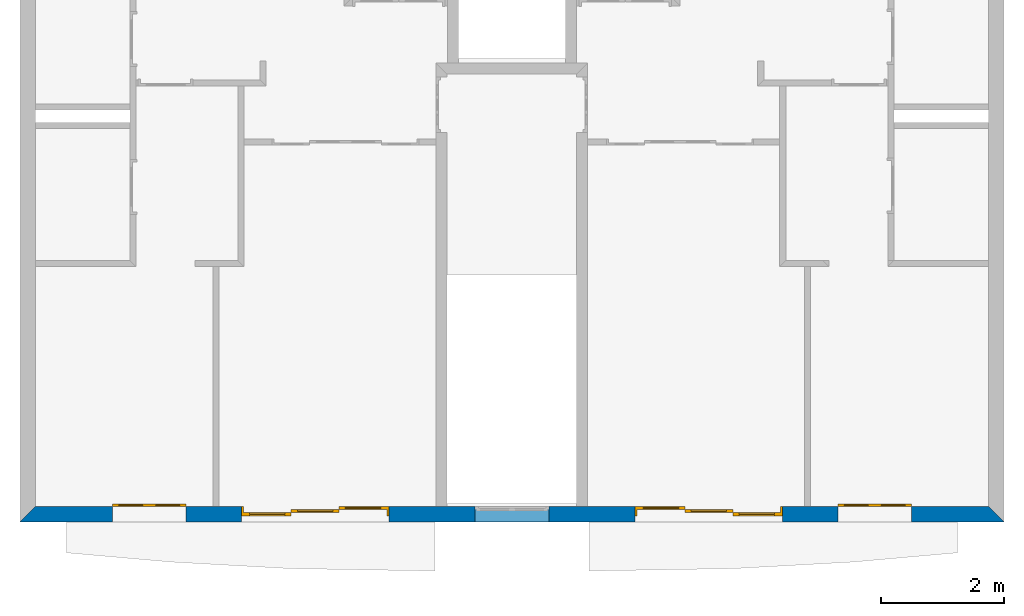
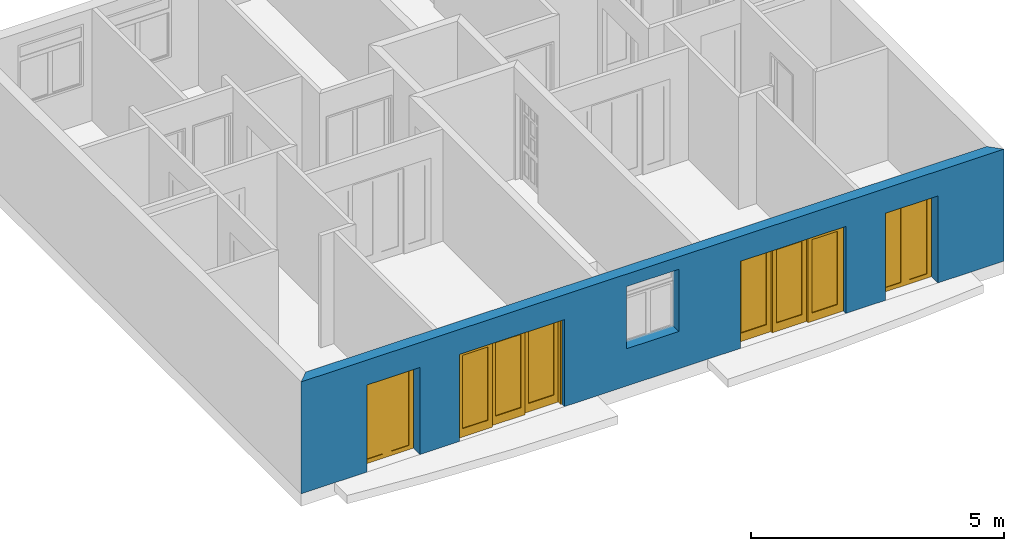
# One storey, part 2 of 13: 4 doors, 1 wall, 5 openings.
"""IFC2X3 building model written with IfcOpenShell, lengths in metres."""

from ifc_helpers import new_model, entity, si_unit, converted_unit, direction, frame, frame_2d, origin_with_axes, place, context, project, spatial, polyline, rectangle, outline, extrude, faceted_brep, source, transform, mapped, material, layer, layer_set, layer_usage, type_object, element, fill, save


model = new_model("IFC2X3")

# Units and contexts
context_of_model = context(None, 3, precision=1e-05, world=origin_with_axes(), true_north=direction((6.123234e-17, 1.0)))
plan_context = context("Plan", 3, precision=1e-05, world=origin_with_axes(), true_north=direction((6.123234e-17, 1.0)))
model_context = context("Model", 3, precision=1e-05, world=origin_with_axes(), true_north=direction((6.123234e-17, 1.0)))
ifc_project = project(units=[si_unit("LENGTHUNIT", "METRE"), si_unit("AREAUNIT", "SQUARE_METRE"), si_unit("VOLUMEUNIT", "CUBIC_METRE"), converted_unit("PLANEANGLEUNIT", "DEGREE", entity("IfcPlaneAngleMeasure", 0.017453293), si_unit("PLANEANGLEUNIT", "RADIAN"), dimensions=[0, 0, 0, 0, 0, 0, 0]), si_unit("SOLIDANGLEUNIT", "STERADIAN"), si_unit("MASSUNIT", "GRAM"), si_unit("TIMEUNIT", "SECOND"), si_unit("THERMODYNAMICTEMPERATUREUNIT", "DEGREE_CELSIUS"), si_unit("LUMINOUSINTENSITYUNIT", "LUMEN")], contexts=[context_of_model, plan_context, model_context])

# Site, building, storey
site_placement = place(None, origin_with_axes())
site = spatial("IfcSite", under=ifc_project, at=site_placement, Name="Por defecto Sitio", CompositionType="ELEMENT")
building_placement = place(site_placement, origin_with_axes())
building = spatial("IfcBuilding", under=site, at=building_placement, Name="Por defecto Edificio", CompositionType="ELEMENT")
storey_placement = place(building_placement, frame((0.0, 0.0, 7.2), z_axis=(0.0, 0.0, 1.0), x_axis=(1.0, 0.0, 0.0)))
storey = spatial("IfcBuildingStorey", under=building, at=storey_placement, Name="Segunda", CompositionType="ELEMENT", Elevation=7.2)

# Wall, openings, doors
ifc_material = material(Name="Ladrillo común")
ifc_layer = layer(ifc_material, 0.25, ventilated="UNKNOWN")
ifc_layer_set = layer_set([ifc_layer], Name="Ladrillo común")
ifc_layer_usage = layer_usage(ifc_layer_set, "AXIS2", "NEGATIVE", 0.0)
wall_type = type_object("IfcWallType", Name="Ladrillo común", PredefinedType="NOTDEFINED")
wall_placement = place(storey_placement, frame((16.03417, -1.1368684e-13, 0.0), z_axis=(0.0, 0.0, 1.0), x_axis=(-1.0, 7.0902852e-15, 0.0)))
wall = element("IfcWallStandardCase", 1, at=wall_placement, inside=storey, type_object=wall_type, material=ifc_layer_usage, Name="Muro-011", context=context_of_model, shape_type="SweptSolid", body=[
    extrude(outline(polyline([(0.25, -0.25), (15.78417, -0.25), (16.03417, 0.0), (0.0, 0.0), (0.25, -0.25)])), origin_with_axes(), (0.0, 0.0, 1.0), 2.7),
])
opening_1_placement = place(wall_placement, frame((13.926599, -0.25, 0.0), z_axis=(0.0, 0.0, 1.0), x_axis=(1.0, 0.0, 0.0)))
opening_1 = element("IfcOpeningElement", 2, at=opening_1_placement, cuts=wall, ObjectType="Opening", context=model_context, shape_type="SweptSolid", body=[
    extrude(rectangle(XDim=1.2, YDim=2.1, at=frame_2d((-1.7763568e-15, 1.05), x_axis=(-1.0, 0.0))), frame((0.0, 0.0, 0.0), z_axis=(0.0, 1.0, 0.0), x_axis=(-1.0, 0.0, 0.0)), (0.0, 0.0, 1.0), 0.25),
])
opening_2_placement = place(wall_placement, frame((2.1075705, -0.25, 0.0), z_axis=(0.0, 0.0, 1.0), x_axis=(1.0, 0.0, 0.0)))
opening_2 = element("IfcOpeningElement", 3, at=opening_2_placement, cuts=wall, ObjectType="Opening", context=model_context, shape_type="SweptSolid", body=[
    extrude(rectangle(XDim=1.2, YDim=2.1, at=frame_2d((-1.7763568e-15, 1.05), x_axis=(-1.0, 0.0))), frame((0.0, 0.0, 0.0), z_axis=(0.0, 1.0, 0.0), x_axis=(-1.0, 0.0, 0.0)), (0.0, 0.0, 1.0), 0.25),
])
opening_3_placement = place(wall_placement, frame((11.225136, -0.25, 0.0), z_axis=(0.0, 0.0, 1.0), x_axis=(1.0, 0.0, 0.0)))
opening_3 = element("IfcOpeningElement", 4, at=opening_3_placement, cuts=wall, ObjectType="Opening", context=model_context, shape_type="SweptSolid", body=[
    extrude(rectangle(XDim=2.4, YDim=2.1, at=frame_2d((-1.7763568e-15, 1.05), x_axis=(-1.0, 0.0))), frame((0.0, 0.0, 0.0), z_axis=(0.0, 1.0, 0.0), x_axis=(-1.0, 0.0, 0.0)), (0.0, 0.0, 1.0), 0.25),
])
opening_4_placement = place(wall_placement, frame((4.8090341, -0.25, 0.0), z_axis=(0.0, 0.0, 1.0), x_axis=(1.0, 0.0, 0.0)))
opening_4 = element("IfcOpeningElement", 5, at=opening_4_placement, cuts=wall, ObjectType="Opening", context=model_context, shape_type="SweptSolid", body=[
    extrude(rectangle(XDim=2.4, YDim=2.1, at=frame_2d((-1.7763568e-15, 1.05), x_axis=(-1.0, 0.0))), frame((0.0, 0.0, 0.0), z_axis=(0.0, 1.0, 0.0), x_axis=(-1.0, 0.0, 0.0)), (0.0, 0.0, 1.0), 0.25),
])
opening_5_placement = place(wall_placement, frame((8.0170849, -0.25, 0.9), z_axis=(0.0, 0.0, 1.0), x_axis=(1.0, 0.0, 0.0)))
element("IfcOpeningElement", 6, at=opening_5_placement, cuts=wall, ObjectType="Opening", context=model_context, shape_type="SweptSolid", body=[
    extrude(rectangle(XDim=1.2, YDim=1.5, at=frame_2d((-1.7763568e-15, 0.75), x_axis=(-1.0, 0.0))), frame((0.0, 0.0, 0.0), z_axis=(0.0, 1.0, 0.0), x_axis=(-1.0, 0.0, 0.0)), (0.0, 0.0, 1.0), 0.25),
])
door_style_1 = type_object("IfcDoorStyle", Name="P2 Corredera Ext 12", ConstructionType="NOTDEFINED", OperationType="DOUBLE_DOOR_SLIDING", ParameterTakesPrecedence=False, Sizeable=False)
shared_shape_1 = source(origin_with_axes(), model_context, "Body", "Brep", [
    faceted_brep([(-2.4424907e-15, 0.045, 0.1), (0.1, 0.045, 0.1), (0.1, 0.005, 0.1), (-2.220446e-15, 0.005, 0.1), (-2.4424907e-15, 0.045, 2.0), (0.1, 0.045, 2.0), (0.1, 0.005, 2.0), (-2.220446e-15, 0.005, 2.0)], [[[0, 1, 2, 3]], [[0, 4, 5, 1]], [[1, 5, 6, 2]], [[3, 2, 6, 7]], [[4, 0, 3, 7]], [[5, 4, 7, 6]]]),
    faceted_brep([(0.6, 0.045, 0.1), (0.6, 0.045, 2.0), (0.6, 0.005, 2.0), (0.6, 0.005, 0.1), (0.5, 0.045, 0.1), (0.5, 0.045, 2.0), (0.5, 0.005, 2.0), (0.5, 0.005, 0.1)], [[[0, 1, 2, 3]], [[0, 4, 5, 1]], [[1, 5, 6, 2]], [[3, 2, 6, 7]], [[4, 0, 3, 7]], [[5, 4, 7, 6]]]),
    faceted_brep([(-2.4424907e-15, 0.045, 0.0), (0.6, 0.045, 0.0), (0.6, 0.005, 0.0), (-2.220446e-15, 0.005, 0.0), (-2.4424907e-15, 0.045, 0.1), (0.1, 0.045, 0.1), (0.5, 0.045, 0.1), (0.6, 0.045, 0.1), (0.6, 0.005, 0.1), (0.5, 0.005, 0.1), (0.1, 0.005, 0.1), (-2.220446e-15, 0.005, 0.1)], [[[0, 1, 2, 3]], [[0, 4, 5, 6, 7, 1]], [[1, 7, 8, 2]], [[3, 2, 8, 9, 10, 11]], [[4, 0, 3, 11]], [[5, 4, 11, 10]], [[6, 5, 10, 9]], [[7, 6, 9, 8]]]),
    faceted_brep([(-2.4424907e-15, 0.045, 2.1), (-2.4424907e-15, 0.045, 2.0), (-2.220446e-15, 0.005, 2.0), (-2.220446e-15, 0.005, 2.1), (0.6, 0.045, 2.1), (0.6, 0.045, 2.0), (0.5, 0.045, 2.0), (0.1, 0.045, 2.0), (0.1, 0.005, 2.0), (0.5, 0.005, 2.0), (0.6, 0.005, 2.0), (0.6, 0.005, 2.1)], [[[0, 1, 2, 3]], [[0, 4, 5, 6, 7, 1]], [[1, 7, 8, 2]], [[3, 2, 8, 9, 10, 11]], [[4, 0, 3, 11]], [[5, 4, 11, 10]], [[6, 5, 10, 9]], [[7, 6, 9, 8]]]),
    faceted_brep([(0.1, 0.031, 0.1), (0.5, 0.031, 0.1), (0.5, 0.019, 0.1), (0.1, 0.019, 0.1), (0.1, 0.031, 2.0), (0.5, 0.031, 2.0), (0.5, 0.019, 2.0), (0.1, 0.019, 2.0)], [[[0, 1, 2, 3]], [[0, 4, 5, 1]], [[1, 5, 6, 2]], [[3, 2, 6, 7]], [[4, 0, 3, 7]], [[5, 4, 7, 6]]]),
    faceted_brep([(1.2, 0.045, 0.1), (1.2, 0.005, 0.1), (1.1, 0.005, 0.1), (1.1, 0.045, 0.1), (1.2, 0.045, 2.0), (1.2, 0.005, 2.0), (1.1, 0.005, 2.0), (1.1, 0.045, 2.0)], [[[0, 1, 2, 3]], [[4, 5, 1, 0]], [[1, 5, 6, 2]], [[3, 2, 6, 7]], [[0, 3, 7, 4]], [[7, 6, 5, 4]]]),
    faceted_brep([(0.6, 0.045, 0.1), (0.6, 0.005, 0.1), (0.6, 0.005, 2.0), (0.6, 0.045, 2.0), (0.7, 0.045, 0.1), (0.7, 0.005, 0.1), (0.7, 0.005, 2.0), (0.7, 0.045, 2.0)], [[[0, 1, 2, 3]], [[4, 5, 1, 0]], [[1, 5, 6, 2]], [[3, 2, 6, 7]], [[0, 3, 7, 4]], [[7, 6, 5, 4]]]),
    faceted_brep([(1.2, 0.045, 0.0), (1.2, 0.005, 0.0), (0.6, 0.005, 0.0), (0.6, 0.045, 0.0), (1.2, 0.045, 0.1), (1.2, 0.005, 0.1), (1.1, 0.005, 0.1), (0.7, 0.005, 0.1), (0.6, 0.005, 0.1), (0.6, 0.045, 0.1), (0.7, 0.045, 0.1), (1.1, 0.045, 0.1)], [[[0, 1, 2, 3]], [[4, 5, 1, 0]], [[1, 5, 6, 7, 8, 2]], [[3, 2, 8, 9]], [[0, 3, 9, 10, 11, 4]], [[11, 6, 5, 4]], [[10, 7, 6, 11]], [[9, 8, 7, 10]]]),
    faceted_brep([(1.2, 0.045, 2.1), (1.2, 0.005, 2.1), (1.2, 0.005, 2.0), (1.2, 0.045, 2.0), (0.6, 0.045, 2.1), (0.6, 0.005, 2.1), (0.6, 0.005, 2.0), (0.7, 0.005, 2.0), (1.1, 0.005, 2.0), (1.1, 0.045, 2.0), (0.7, 0.045, 2.0), (0.6, 0.045, 2.0)], [[[0, 1, 2, 3]], [[4, 5, 1, 0]], [[1, 5, 6, 7, 8, 2]], [[3, 2, 8, 9]], [[0, 3, 9, 10, 11, 4]], [[11, 6, 5, 4]], [[10, 7, 6, 11]], [[9, 8, 7, 10]]]),
    faceted_brep([(1.1, 0.031, 0.1), (1.1, 0.019, 0.1), (0.7, 0.019, 0.1), (0.7, 0.031, 0.1), (1.1, 0.031, 2.0), (1.1, 0.019, 2.0), (0.7, 0.019, 2.0), (0.7, 0.031, 2.0)], [[[0, 1, 2, 3]], [[4, 5, 1, 0]], [[1, 5, 6, 2]], [[3, 2, 6, 7]], [[0, 3, 7, 4]], [[7, 6, 5, 4]]]),
])
door_1_placement = place(opening_1_placement, frame((0.6, 0.0, 0.0), z_axis=(0.0, 0.0, 1.0), x_axis=(-1.0, 0.0, 0.0)))
door_1 = element("IfcDoor", 7, at=door_1_placement, inside=storey, type_object=door_style_1, Name="P29", OverallHeight=2.1, OverallWidth=1.2, context=model_context, shape_type="MappedRepresentation", body=[
    mapped(shared_shape_1, transform((0.0, 0.0, 0.0), scale=1.0)),
])
fill(opening_1, door_1)
door_style_2 = type_object("IfcDoorStyle", Name="P2 Corredera Ext 12", ConstructionType="NOTDEFINED", OperationType="DOUBLE_DOOR_SLIDING", ParameterTakesPrecedence=False, Sizeable=False)
door_2_placement = place(opening_2_placement, frame((0.6, 0.0, 0.0), z_axis=(0.0, 0.0, 1.0), x_axis=(-1.0, 0.0, 0.0)))
door_2 = element("IfcDoor", 8, at=door_2_placement, inside=storey, type_object=door_style_2, Name="P30", OverallHeight=2.1, OverallWidth=1.2, context=model_context, shape_type="MappedRepresentation", body=[
    mapped(shared_shape_1, transform((0.0, 0.0, 0.0), scale=1.0)),
])
fill(opening_2, door_2)
door_style_3 = type_object("IfcDoorStyle", Name="P3 Corredera 12", ConstructionType="NOTDEFINED", OperationType="SLIDING_TO_RIGHT", ParameterTakesPrecedence=False, Sizeable=False)
shared_shape_2 = source(origin_with_axes(), model_context, "Body", "Brep", [
    faceted_brep([(0.03, 0.15, 0.0), (0.03, 0.15, 2.07), (0.03, -8.6333718e-14, 2.07), (0.03, -8.6222696e-14, 0.0), (-1.7763568e-15, 0.15, 0.0), (-1.7763568e-15, 0.15, 2.07), (-8.8817842e-16, -8.6541885e-14, 2.07), (0.0, 0.0, 0.0)], [[[0, 1, 2, 3]], [[0, 4, 5, 1]], [[1, 5, 6, 2]], [[3, 2, 6, 7]], [[4, 0, 3, 7]], [[5, 4, 7, 6]]]),
    faceted_brep([(2.4, 0.15, 0.0), (2.4, 0.15, 2.07), (2.4, -7.0110584e-14, 2.07), (2.4, -6.9999562e-14, 0.0), (2.37, 0.15, 0.0), (2.37, 0.15, 2.07), (2.37, -7.0318751e-14, 2.07), (2.37, -7.0179973e-14, 0.0)], [[[0, 1, 2, 3]], [[0, 4, 5, 1]], [[1, 5, 6, 2]], [[3, 2, 6, 7]], [[4, 0, 3, 7]], [[5, 4, 7, 6]]]),
    faceted_brep([(-1.7763568e-15, 0.15, 2.1), (-1.7763568e-15, 0.15, 2.07), (-8.8817842e-16, -8.6541885e-14, 2.07), (-8.8817842e-16, -8.6541885e-14, 2.1), (2.4, 0.15, 2.1), (2.4, 0.15, 2.07), (2.37, 0.15, 2.07), (0.03, 0.15, 2.07), (0.03, -8.6333718e-14, 2.07), (2.37, -7.0318751e-14, 2.07), (2.4, -7.0110584e-14, 2.07), (2.4, -7.0110584e-14, 2.1)], [[[0, 1, 2, 3]], [[0, 4, 5, 6, 7, 1]], [[1, 7, 8, 2]], [[3, 2, 8, 9, 10, 11]], [[4, 0, 3, 11]], [[5, 4, 11, 10]], [[6, 5, 10, 9]], [[7, 6, 9, 8]]]),
    faceted_brep([(2.37, 0.15, 0.2), (2.37, 0.1, 0.2), (2.27, 0.1, 0.2), (2.27, 0.15, 0.2), (2.37, 0.15, 1.97), (2.37, 0.1, 1.97), (2.27, 0.1, 1.97), (2.27, 0.15, 1.97)], [[[0, 1, 2, 3]], [[4, 5, 1, 0]], [[1, 5, 6, 2]], [[3, 2, 6, 7]], [[0, 3, 7, 4]], [[7, 6, 5, 4]]]),
    faceted_brep([(1.59, 0.15, 0.2), (1.59, 0.1, 0.2), (1.59, 0.1, 1.97), (1.59, 0.15, 1.97), (1.69, 0.15, 0.2), (1.69, 0.1, 0.2), (1.69, 0.1, 1.97), (1.69, 0.15, 1.97)], [[[0, 1, 2, 3]], [[4, 5, 1, 0]], [[1, 5, 6, 2]], [[3, 2, 6, 7]], [[0, 3, 7, 4]], [[7, 6, 5, 4]]]),
    faceted_brep([(2.37, 0.15, 0.0), (2.37, 0.1, 0.0), (1.59, 0.1, 0.0), (1.59, 0.15, 0.0), (2.37, 0.15, 0.2), (2.37, 0.1, 0.2), (2.27, 0.1, 0.2), (1.69, 0.1, 0.2), (1.59, 0.1, 0.2), (1.59, 0.15, 0.2), (1.69, 0.15, 0.2), (2.27, 0.15, 0.2)], [[[0, 1, 2, 3]], [[4, 5, 1, 0]], [[1, 5, 6, 7, 8, 2]], [[3, 2, 8, 9]], [[0, 3, 9, 10, 11, 4]], [[11, 6, 5, 4]], [[10, 7, 6, 11]], [[9, 8, 7, 10]]]),
    faceted_brep([(2.37, 0.15, 2.07), (2.37, 0.1, 2.07), (2.37, 0.1, 1.97), (2.37, 0.15, 1.97), (1.59, 0.15, 2.07), (1.59, 0.1, 2.07), (1.59, 0.1, 1.97), (1.69, 0.1, 1.97), (2.27, 0.1, 1.97), (2.27, 0.15, 1.97), (1.69, 0.15, 1.97), (1.59, 0.15, 1.97)], [[[0, 1, 2, 3]], [[4, 5, 1, 0]], [[1, 5, 6, 7, 8, 2]], [[3, 2, 8, 9]], [[0, 3, 9, 10, 11, 4]], [[11, 6, 5, 4]], [[10, 7, 6, 11]], [[9, 8, 7, 10]]]),
    faceted_brep([(2.27, 0.131, 0.2), (2.27, 0.119, 0.2), (1.69, 0.119, 0.2), (1.69, 0.131, 0.2), (2.27, 0.131, 1.97), (2.27, 0.119, 1.97), (1.69, 0.119, 1.97), (1.69, 0.131, 1.97)], [[[0, 1, 2, 3]], [[4, 5, 1, 0]], [[1, 5, 6, 2]], [[3, 2, 6, 7]], [[0, 3, 7, 4]], [[7, 6, 5, 4]]]),
    faceted_brep([(1.59, 0.1, 0.2), (1.59, 0.05, 0.2), (1.49, 0.05, 0.2), (1.49, 0.1, 0.2), (1.59, 0.1, 1.97), (1.59, 0.05, 1.97), (1.49, 0.05, 1.97), (1.49, 0.1, 1.97)], [[[0, 1, 2, 3]], [[4, 5, 1, 0]], [[1, 5, 6, 2]], [[3, 2, 6, 7]], [[0, 3, 7, 4]], [[7, 6, 5, 4]]]),
    faceted_brep([(0.81, 0.1, 0.2), (0.81, 0.05, 0.2), (0.81, 0.05, 1.97), (0.81, 0.1, 1.97), (0.91, 0.1, 0.2), (0.91, 0.05, 0.2), (0.91, 0.05, 1.97), (0.91, 0.1, 1.97)], [[[0, 1, 2, 3]], [[4, 5, 1, 0]], [[1, 5, 6, 2]], [[3, 2, 6, 7]], [[0, 3, 7, 4]], [[7, 6, 5, 4]]]),
    faceted_brep([(1.59, 0.1, 0.0), (1.59, 0.05, 0.0), (0.81, 0.05, 0.0), (0.81, 0.1, 0.0), (1.59, 0.1, 0.2), (1.59, 0.05, 0.2), (1.49, 0.05, 0.2), (0.91, 0.05, 0.2), (0.81, 0.05, 0.2), (0.81, 0.1, 0.2), (0.91, 0.1, 0.2), (1.49, 0.1, 0.2)], [[[0, 1, 2, 3]], [[4, 5, 1, 0]], [[1, 5, 6, 7, 8, 2]], [[3, 2, 8, 9]], [[0, 3, 9, 10, 11, 4]], [[11, 6, 5, 4]], [[10, 7, 6, 11]], [[9, 8, 7, 10]]]),
    faceted_brep([(1.59, 0.1, 2.07), (1.59, 0.05, 2.07), (1.59, 0.05, 1.97), (1.59, 0.1, 1.97), (0.81, 0.1, 2.07), (0.81, 0.05, 2.07), (0.81, 0.05, 1.97), (0.91, 0.05, 1.97), (1.49, 0.05, 1.97), (1.49, 0.1, 1.97), (0.91, 0.1, 1.97), (0.81, 0.1, 1.97)], [[[0, 1, 2, 3]], [[4, 5, 1, 0]], [[1, 5, 6, 7, 8, 2]], [[3, 2, 8, 9]], [[0, 3, 9, 10, 11, 4]], [[11, 6, 5, 4]], [[10, 7, 6, 11]], [[9, 8, 7, 10]]]),
    faceted_brep([(1.49, 0.081, 0.2), (1.49, 0.069, 0.2), (0.91, 0.069, 0.2), (0.91, 0.081, 0.2), (1.49, 0.081, 1.97), (1.49, 0.069, 1.97), (0.91, 0.069, 1.97), (0.91, 0.081, 1.97)], [[[0, 1, 2, 3]], [[4, 5, 1, 0]], [[1, 5, 6, 2]], [[3, 2, 6, 7]], [[0, 3, 7, 4]], [[7, 6, 5, 4]]]),
    faceted_brep([(0.81, 0.05, 0.2), (0.81, -8.0907503e-14, 0.2), (0.71, -8.1587515e-14, 0.2), (0.71, 0.05, 0.2), (0.81, 0.05, 1.97), (0.81, -8.1129548e-14, 1.97), (0.71, -8.1809559e-14, 1.97), (0.71, 0.05, 1.97)], [[[0, 1, 2, 3]], [[4, 5, 1, 0]], [[1, 5, 6, 2]], [[3, 2, 6, 7]], [[0, 3, 7, 4]], [[7, 6, 5, 4]]]),
    faceted_brep([(0.03, 0.05, 0.2), (0.03, -8.6250451e-14, 0.2), (0.03, -8.6472496e-14, 1.97), (0.03, 0.05, 1.97), (0.13, 0.05, 0.2), (0.13, -8.557044e-14, 0.2), (0.13, -8.5792484e-14, 1.97), (0.13, 0.05, 1.97)], [[[0, 1, 2, 3]], [[4, 5, 1, 0]], [[1, 5, 6, 2]], [[3, 2, 6, 7]], [[0, 3, 7, 4]], [[7, 6, 5, 4]]]),
    faceted_brep([(0.81, 0.05, 0.0), (0.81, -8.0907503e-14, 0.0), (0.03, -8.6250451e-14, 0.0), (0.03, 0.05, 0.0), (0.81, 0.05, 0.2), (0.81, -8.0907503e-14, 0.2), (0.71, -8.1587515e-14, 0.2), (0.13, -8.557044e-14, 0.2), (0.03, -8.6250451e-14, 0.2), (0.03, 0.05, 0.2), (0.13, 0.05, 0.2), (0.71, 0.05, 0.2)], [[[0, 1, 2, 3]], [[4, 5, 1, 0]], [[1, 5, 6, 7, 8, 2]], [[3, 2, 8, 9]], [[0, 3, 9, 10, 11, 4]], [[11, 6, 5, 4]], [[10, 7, 6, 11]], [[9, 8, 7, 10]]]),
    faceted_brep([(0.81, 0.05, 2.07), (0.81, -8.1129548e-14, 2.07), (0.81, -8.1129548e-14, 1.97), (0.81, 0.05, 1.97), (0.03, 0.05, 2.07), (0.03, -8.6472496e-14, 2.07), (0.03, -8.6472496e-14, 1.97), (0.13, -8.5792484e-14, 1.97), (0.71, -8.1809559e-14, 1.97), (0.71, 0.05, 1.97), (0.13, 0.05, 1.97), (0.03, 0.05, 1.97)], [[[0, 1, 2, 3]], [[4, 5, 1, 0]], [[1, 5, 6, 7, 8, 2]], [[3, 2, 8, 9]], [[0, 3, 9, 10, 11, 4]], [[11, 6, 5, 4]], [[10, 7, 6, 11]], [[9, 8, 7, 10]]]),
    faceted_brep([(0.71, 0.031, 0.2), (0.71, 0.019, 0.2), (0.13, 0.019, 0.2), (0.13, 0.031, 0.2), (0.71, 0.031, 1.97), (0.71, 0.019, 1.97), (0.13, 0.019, 1.97), (0.13, 0.031, 1.97)], [[[0, 1, 2, 3]], [[4, 5, 1, 0]], [[1, 5, 6, 2]], [[3, 2, 6, 7]], [[0, 3, 7, 4]], [[7, 6, 5, 4]]]),
])
door_3_placement = place(opening_3_placement, frame((1.2, 0.15, 0.0), z_axis=(0.0, 0.0, 1.0), x_axis=(-1.0, 0.0, 0.0)))
door_3 = element("IfcDoor", 9, at=door_3_placement, inside=storey, type_object=door_style_3, Name="P26", OverallHeight=2.1, OverallWidth=2.4, context=model_context, shape_type="MappedRepresentation", body=[
    mapped(shared_shape_2, transform((0.0, 0.0, 0.0), scale=1.0)),
])
fill(opening_3, door_3)
door_style_4 = type_object("IfcDoorStyle", Name="P3 Corredera 12", ConstructionType="NOTDEFINED", OperationType="SLIDING_TO_LEFT", ParameterTakesPrecedence=False, Sizeable=False)
shared_shape_3 = source(origin_with_axes(), model_context, "Body", "Brep", [
    faceted_brep([(2.37, 0.15, 0.0), (2.37, -2.5493496e-14, 0.0), (2.37, -2.5632274e-14, 2.07), (2.37, 0.15, 2.07), (2.4, 0.15, 0.0), (2.4, -2.5313085e-14, 0.0), (2.4, -2.5424107e-14, 2.07), (2.4, 0.15, 2.07)], [[[0, 1, 2, 3]], [[4, 5, 1, 0]], [[1, 5, 6, 2]], [[3, 2, 6, 7]], [[0, 3, 7, 4]], [[7, 6, 5, 4]]]),
    faceted_brep([(-1.7763568e-15, 0.15, 0.0), (0.0, 0.0, 0.0), (0.0, -4.1855408e-14, 2.07), (-1.7763568e-15, 0.15, 2.07), (0.03, 0.15, 0.0), (0.03, -4.1536219e-14, 0.0), (0.03, -4.1647241e-14, 2.07), (0.03, 0.15, 2.07)], [[[0, 1, 2, 3]], [[4, 5, 1, 0]], [[1, 5, 6, 2]], [[3, 2, 6, 7]], [[0, 3, 7, 4]], [[7, 6, 5, 4]]]),
    faceted_brep([(2.4, 0.15, 2.1), (2.4, -2.5424107e-14, 2.1), (2.4, -2.5424107e-14, 2.07), (2.4, 0.15, 2.07), (-1.7763568e-15, 0.15, 2.1), (0.0, -4.1855408e-14, 2.1), (0.0, -4.1855408e-14, 2.07), (0.03, -4.1647241e-14, 2.07), (2.37, -2.5632274e-14, 2.07), (2.37, 0.15, 2.07), (0.03, 0.15, 2.07), (-1.7763568e-15, 0.15, 2.07)], [[[0, 1, 2, 3]], [[4, 5, 1, 0]], [[1, 5, 6, 7, 8, 2]], [[3, 2, 8, 9]], [[0, 3, 9, 10, 11, 4]], [[11, 6, 5, 4]], [[10, 7, 6, 11]], [[9, 8, 7, 10]]]),
    faceted_brep([(0.03, 0.15, 0.2), (0.13, 0.15, 0.2), (0.13, 0.1, 0.2), (0.03, 0.1, 0.2), (0.03, 0.15, 1.97), (0.13, 0.15, 1.97), (0.13, 0.1, 1.97), (0.03, 0.1, 1.97)], [[[0, 1, 2, 3]], [[0, 4, 5, 1]], [[1, 5, 6, 2]], [[3, 2, 6, 7]], [[4, 0, 3, 7]], [[5, 4, 7, 6]]]),
    faceted_brep([(0.81, 0.15, 0.2), (0.81, 0.15, 1.97), (0.81, 0.1, 1.97), (0.81, 0.1, 0.2), (0.71, 0.15, 0.2), (0.71, 0.15, 1.97), (0.71, 0.1, 1.97), (0.71, 0.1, 0.2)], [[[0, 1, 2, 3]], [[0, 4, 5, 1]], [[1, 5, 6, 2]], [[3, 2, 6, 7]], [[4, 0, 3, 7]], [[5, 4, 7, 6]]]),
    faceted_brep([(0.03, 0.15, 0.0), (0.81, 0.15, 0.0), (0.81, 0.1, 0.0), (0.03, 0.1, 0.0), (0.03, 0.15, 0.2), (0.13, 0.15, 0.2), (0.71, 0.15, 0.2), (0.81, 0.15, 0.2), (0.81, 0.1, 0.2), (0.71, 0.1, 0.2), (0.13, 0.1, 0.2), (0.03, 0.1, 0.2)], [[[0, 1, 2, 3]], [[0, 4, 5, 6, 7, 1]], [[1, 7, 8, 2]], [[3, 2, 8, 9, 10, 11]], [[4, 0, 3, 11]], [[5, 4, 11, 10]], [[6, 5, 10, 9]], [[7, 6, 9, 8]]]),
    faceted_brep([(0.03, 0.15, 2.07), (0.03, 0.15, 1.97), (0.03, 0.1, 1.97), (0.03, 0.1, 2.07), (0.81, 0.15, 2.07), (0.81, 0.15, 1.97), (0.71, 0.15, 1.97), (0.13, 0.15, 1.97), (0.13, 0.1, 1.97), (0.71, 0.1, 1.97), (0.81, 0.1, 1.97), (0.81, 0.1, 2.07)], [[[0, 1, 2, 3]], [[0, 4, 5, 6, 7, 1]], [[1, 7, 8, 2]], [[3, 2, 8, 9, 10, 11]], [[4, 0, 3, 11]], [[5, 4, 11, 10]], [[6, 5, 10, 9]], [[7, 6, 9, 8]]]),
    faceted_brep([(0.13, 0.131, 0.2), (0.71, 0.131, 0.2), (0.71, 0.119, 0.2), (0.13, 0.119, 0.2), (0.13, 0.131, 1.97), (0.71, 0.131, 1.97), (0.71, 0.119, 1.97), (0.13, 0.119, 1.97)], [[[0, 1, 2, 3]], [[0, 4, 5, 1]], [[1, 5, 6, 2]], [[3, 2, 6, 7]], [[4, 0, 3, 7]], [[5, 4, 7, 6]]]),
    faceted_brep([(0.81, 0.1, 0.2), (0.91, 0.1, 0.2), (0.91, 0.05, 0.2), (0.81, 0.05, 0.2), (0.81, 0.1, 1.97), (0.91, 0.1, 1.97), (0.91, 0.05, 1.97), (0.81, 0.05, 1.97)], [[[0, 1, 2, 3]], [[0, 4, 5, 1]], [[1, 5, 6, 2]], [[3, 2, 6, 7]], [[4, 0, 3, 7]], [[5, 4, 7, 6]]]),
    faceted_brep([(1.59, 0.1, 0.2), (1.59, 0.1, 1.97), (1.59, 0.05, 1.97), (1.59, 0.05, 0.2), (1.49, 0.1, 0.2), (1.49, 0.1, 1.97), (1.49, 0.05, 1.97), (1.49, 0.05, 0.2)], [[[0, 1, 2, 3]], [[0, 4, 5, 1]], [[1, 5, 6, 2]], [[3, 2, 6, 7]], [[4, 0, 3, 7]], [[5, 4, 7, 6]]]),
    faceted_brep([(0.81, 0.1, 0.0), (1.59, 0.1, 0.0), (1.59, 0.05, 0.0), (0.81, 0.05, 0.0), (0.81, 0.1, 0.2), (0.91, 0.1, 0.2), (1.49, 0.1, 0.2), (1.59, 0.1, 0.2), (1.59, 0.05, 0.2), (1.49, 0.05, 0.2), (0.91, 0.05, 0.2), (0.81, 0.05, 0.2)], [[[0, 1, 2, 3]], [[0, 4, 5, 6, 7, 1]], [[1, 7, 8, 2]], [[3, 2, 8, 9, 10, 11]], [[4, 0, 3, 11]], [[5, 4, 11, 10]], [[6, 5, 10, 9]], [[7, 6, 9, 8]]]),
    faceted_brep([(0.81, 0.1, 2.07), (0.81, 0.1, 1.97), (0.81, 0.05, 1.97), (0.81, 0.05, 2.07), (1.59, 0.1, 2.07), (1.59, 0.1, 1.97), (1.49, 0.1, 1.97), (0.91, 0.1, 1.97), (0.91, 0.05, 1.97), (1.49, 0.05, 1.97), (1.59, 0.05, 1.97), (1.59, 0.05, 2.07)], [[[0, 1, 2, 3]], [[0, 4, 5, 6, 7, 1]], [[1, 7, 8, 2]], [[3, 2, 8, 9, 10, 11]], [[4, 0, 3, 11]], [[5, 4, 11, 10]], [[6, 5, 10, 9]], [[7, 6, 9, 8]]]),
    faceted_brep([(0.91, 0.081, 0.2), (1.49, 0.081, 0.2), (1.49, 0.069, 0.2), (0.91, 0.069, 0.2), (0.91, 0.081, 1.97), (1.49, 0.081, 1.97), (1.49, 0.069, 1.97), (0.91, 0.069, 1.97)], [[[0, 1, 2, 3]], [[0, 4, 5, 1]], [[1, 5, 6, 2]], [[3, 2, 6, 7]], [[4, 0, 3, 7]], [[5, 4, 7, 6]]]),
    faceted_brep([(1.59, 0.05, 0.2), (1.69, 0.05, 0.2), (1.69, -3.0211944e-14, 0.2), (1.59, -3.0891956e-14, 0.2), (1.59, 0.05, 1.97), (1.69, 0.05, 1.97), (1.69, -3.0433989e-14, 1.97), (1.59, -3.1114e-14, 1.97)], [[[0, 1, 2, 3]], [[0, 4, 5, 1]], [[1, 5, 6, 2]], [[3, 2, 6, 7]], [[4, 0, 3, 7]], [[5, 4, 7, 6]]]),
    faceted_brep([(2.37, 0.05, 0.2), (2.37, 0.05, 1.97), (2.37, -2.5771052e-14, 1.97), (2.37, -2.5549007e-14, 0.2), (2.27, 0.05, 0.2), (2.27, 0.05, 1.97), (2.27, -2.6451064e-14, 1.97), (2.27, -2.6229019e-14, 0.2)], [[[0, 1, 2, 3]], [[0, 4, 5, 1]], [[1, 5, 6, 2]], [[3, 2, 6, 7]], [[4, 0, 3, 7]], [[5, 4, 7, 6]]]),
    faceted_brep([(1.59, 0.05, 0.0), (2.37, 0.05, 0.0), (2.37, -2.5521252e-14, 0.0), (1.59, -3.08642e-14, 0.0), (1.59, 0.05, 0.2), (1.69, 0.05, 0.2), (2.27, 0.05, 0.2), (2.37, 0.05, 0.2), (2.37, -2.5549007e-14, 0.2), (2.27, -2.6229019e-14, 0.2), (1.69, -3.0211944e-14, 0.2), (1.59, -3.0891956e-14, 0.2)], [[[0, 1, 2, 3]], [[0, 4, 5, 6, 7, 1]], [[1, 7, 8, 2]], [[3, 2, 8, 9, 10, 11]], [[4, 0, 3, 11]], [[5, 4, 11, 10]], [[6, 5, 10, 9]], [[7, 6, 9, 8]]]),
    faceted_brep([(1.59, 0.05, 2.07), (1.59, 0.05, 1.97), (1.59, -3.1114e-14, 1.97), (1.59, -3.1114e-14, 2.07), (2.37, 0.05, 2.07), (2.37, 0.05, 1.97), (2.27, 0.05, 1.97), (1.69, 0.05, 1.97), (1.69, -3.0433989e-14, 1.97), (2.27, -2.6451064e-14, 1.97), (2.37, -2.5771052e-14, 1.97), (2.37, -2.5771052e-14, 2.07)], [[[0, 1, 2, 3]], [[0, 4, 5, 6, 7, 1]], [[1, 7, 8, 2]], [[3, 2, 8, 9, 10, 11]], [[4, 0, 3, 11]], [[5, 4, 11, 10]], [[6, 5, 10, 9]], [[7, 6, 9, 8]]]),
    faceted_brep([(1.69, 0.031, 0.2), (2.27, 0.031, 0.2), (2.27, 0.019, 0.2), (1.69, 0.019, 0.2), (1.69, 0.031, 1.97), (2.27, 0.031, 1.97), (2.27, 0.019, 1.97), (1.69, 0.019, 1.97)], [[[0, 1, 2, 3]], [[0, 4, 5, 1]], [[1, 5, 6, 2]], [[3, 2, 6, 7]], [[4, 0, 3, 7]], [[5, 4, 7, 6]]]),
])
door_4_placement = place(opening_4_placement, frame((1.2, 0.15, 0.0), z_axis=(0.0, 0.0, 1.0), x_axis=(-1.0, 0.0, 0.0)))
door_4 = element("IfcDoor", 10, at=door_4_placement, inside=storey, type_object=door_style_4, Name="P27", OverallHeight=2.1, OverallWidth=2.4, context=model_context, shape_type="MappedRepresentation", body=[
    mapped(shared_shape_3, transform((0.0, 0.0, 0.0), scale=1.0)),
])
fill(opening_4, door_4)

save(model, "model.ifc")
